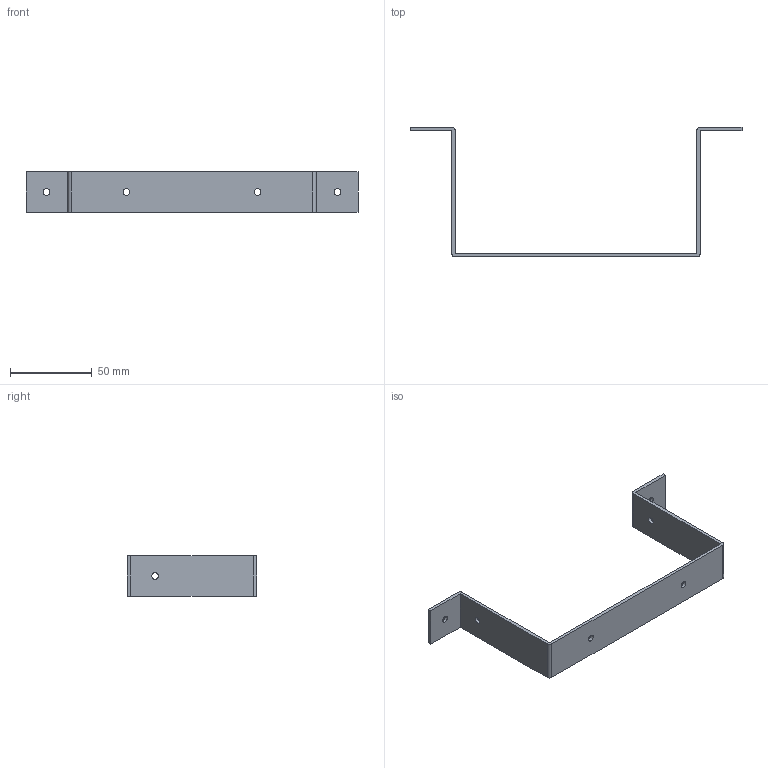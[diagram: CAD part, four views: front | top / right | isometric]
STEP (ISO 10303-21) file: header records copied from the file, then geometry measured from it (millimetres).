
FILE_DESCRIPTION(('HOOPS Exchange Step'),'2;1');
FILE_NAME('C:\Users\ZakSawa\AppData\Local\Temp\Alibre Design\export-1FF227BC-3777-4DE9-B97A-402296E6785D.stp','2019-08-02T19:48:53+09:00',('ZakSawa'),('Alibre'),'HOOPS Exchange 2019.2','Alibre','Unknown authorisation');
FILE_SCHEMA( ('AP203_CONFIGURATION_CONTROLLED_3D_DESIGN_OF_MECHANICAL_PARTS_AND_ASSEMBLIES_MIM_LF') );
Length unit declared in the file: millimetre
Products named in the file (1): BatteryHolderMainFrameC
Bounding box: 202.5 x 79 x 25 mm (x, y, z)
Volume: 17588.4 mm3; surface area: 19258.3 mm2
Topology: 1 solids, 1 shells, 24 faces, 66 edges, 44 vertices
Faces by surface type: plane 14, cylinder 10
Full cylindrical faces by diameter (mm): 4 x6
Entity records: 819 total; most frequent: DIRECTION 136, CARTESIAN_POINT 135, ORIENTED_EDGE 132, EDGE_CURVE 66, VECTOR 46, LINE 46, AXIS2_PLACEMENT_3D 45, VERTEX_POINT 44
